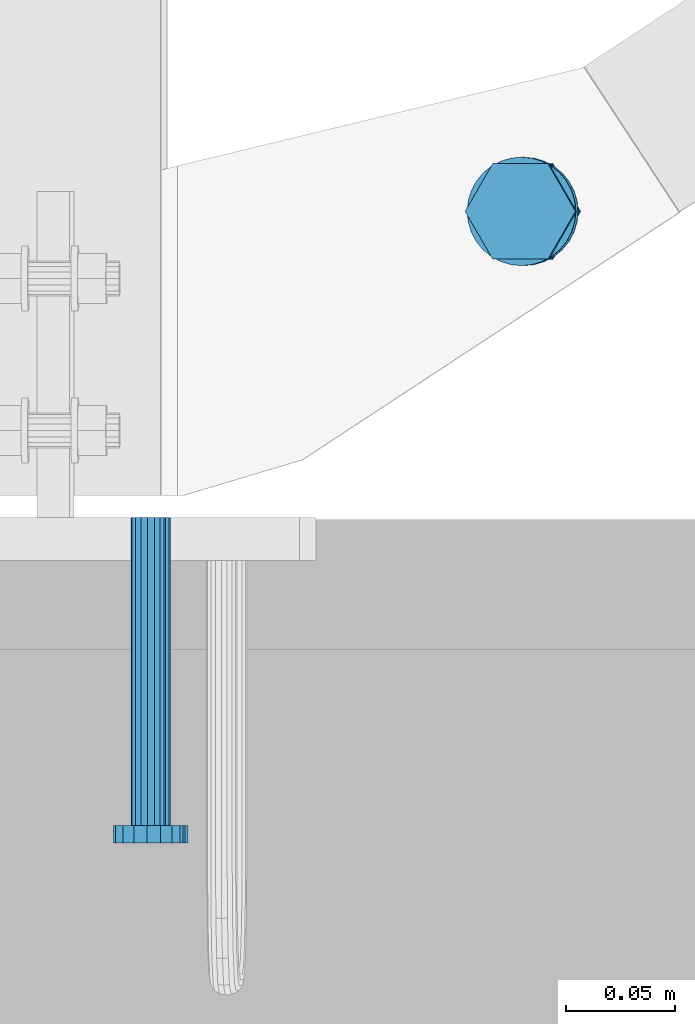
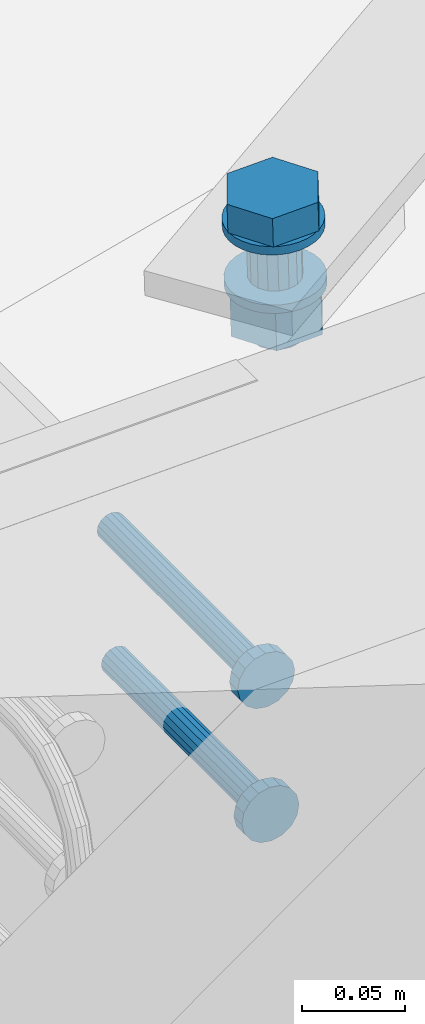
# One storey, part 98 of 476: 3 mechanical fasteners.
"""IFC2X3 building model written with IfcOpenShell, lengths in millimetres."""

from ifc_helpers import new_model, entity, si_unit, converted_unit, origin_with_axes, place, context, project, spatial, faceted_brep, element, save


model = new_model("IFC2X3")

# Units and contexts
model_context = context("Model", 3, precision=1e-09, world=origin_with_axes())
ifc_project = project(units=[si_unit("LENGTHUNIT", "METRE", prefix="MILLI"), si_unit("AREAUNIT", "SQUARE_METRE"), si_unit("VOLUMEUNIT", "CUBIC_METRE"), converted_unit("PLANEANGLEUNIT", "DEGREE", entity("IfcPlaneAngleMeasure", 0.01745329), si_unit("PLANEANGLEUNIT", "RADIAN"), dimensions=[0, 0, 0, 0, 0, 0, 0])], contexts=[model_context])

# Site, building, storey
site_placement = place(None, origin_with_axes())
site = spatial("IfcSite", under=ifc_project, at=site_placement, Name="mKR Teilneubau & Sanierung BA1 - Ostfildern", CompositionType="ELEMENT")
building_placement = place(site_placement, origin_with_axes())
building = spatial("IfcBuilding", under=site, at=building_placement, Name="Struktur 1", CompositionType="ELEMENT")
storey_placement = place(building_placement, origin_with_axes())
storey = spatial("IfcBuildingStorey", under=building, at=storey_placement, Name="Default Storey", CompositionType="ELEMENT", Elevation=0.0)

# Mechanical fasteners
mechanical_fastener_1_placement = place(None, origin_with_axes())
element("IfcMechanicalFastener", 1, at=mechanical_fastener_1_placement, inside=storey, ObjectType="-", NominalDiameter=27.0, NominalLength=70.0, context=model_context, shape_type="Brep", body=[
    faceted_brep([(8390.391336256, -23313.385941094, 5236.079336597), (8390.241238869, -23313.385941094, 5241.077083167), (8395.116298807, -23313.866309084, 5241.223495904), (8395.266396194, -23313.866309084, 5236.225749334), (8399.804012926, -23315.288952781, 5241.364282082), (8399.954110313, -23315.288952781, 5236.366535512), (8404.124235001, -23317.599200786, 5241.494031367), (8404.274332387, -23317.599200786, 5236.496284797), (8407.91094132, -23320.708271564, 5241.607757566), (8408.061038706, -23320.708271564, 5236.610010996), (8411.018610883, -23324.496685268, 5241.701090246), (8411.168708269, -23324.496685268, 5236.703343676), (8413.327817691, -23328.818855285, 5241.770442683), (8413.477915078, -23328.818855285, 5236.772696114), (8414.749820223, -23333.508683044, 5241.813149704), (8414.899917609, -23333.508683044, 5236.815403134), (8415.229971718, -23338.385941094, 5241.8275701), (8415.380069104, -23338.385941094, 5236.82982353), (8414.749820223, -23343.263199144, 5241.813149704), (8414.899917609, -23343.263199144, 5236.815403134), (8413.327817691, -23347.953026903, 5241.770442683), (8413.477915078, -23347.953026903, 5236.772696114), (8411.018610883, -23352.275196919, 5241.701090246), (8411.168708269, -23352.275196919, 5236.703343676), (8407.91094132, -23356.063610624, 5241.607757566), (8408.061038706, -23356.063610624, 5236.610010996), (8404.124235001, -23359.172681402, 5241.494031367), (8404.274332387, -23359.172681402, 5236.496284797), (8399.804012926, -23361.482929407, 5241.364282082), (8399.954110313, -23361.482929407, 5236.366535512), (8395.116298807, -23362.905573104, 5241.223495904), (8395.266396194, -23362.905573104, 5236.225749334), (8390.241238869, -23363.385941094, 5241.077083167), (8390.391336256, -23363.385941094, 5236.079336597), (8385.366178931, -23362.905573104, 5240.930670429), (8385.516276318, -23362.905573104, 5235.932923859), (8380.678464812, -23361.482929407, 5240.789884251), (8380.828562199, -23361.482929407, 5235.792137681), (8376.358242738, -23359.172681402, 5240.660134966), (8376.508340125, -23359.172681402, 5235.662388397), (8372.571536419, -23356.063610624, 5240.546408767), (8372.721633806, -23356.063610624, 5235.548662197), (8369.463866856, -23352.275196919, 5240.453076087), (8369.613964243, -23352.275196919, 5235.455329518), (8367.154660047, -23347.953026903, 5240.38372365), (8367.304757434, -23347.953026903, 5235.38597708), (8365.732657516, -23343.263199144, 5240.34101663), (8365.882754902, -23343.263199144, 5235.34327006), (8365.252506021, -23338.385941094, 5240.326596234), (8365.402603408, -23338.385941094, 5235.328849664), (8365.732657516, -23333.508683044, 5240.34101663), (8365.882754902, -23333.508683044, 5235.34327006), (8367.154660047, -23328.818855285, 5240.38372365), (8367.304757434, -23328.818855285, 5235.38597708), (8369.463866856, -23324.496685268, 5240.453076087), (8369.613964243, -23324.496685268, 5235.455329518), (8372.571536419, -23320.708271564, 5240.546408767), (8372.721633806, -23320.708271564, 5235.548662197), (8376.358242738, -23317.599200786, 5240.660134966), (8376.508340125, -23317.599200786, 5235.662388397), (8380.678464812, -23315.288952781, 5240.789884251), (8380.828562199, -23315.288952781, 5235.792137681), (8385.366178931, -23313.866309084, 5240.930670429), (8385.516276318, -23313.866309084, 5235.932923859)], [[[0, 1, 2, 3]], [[3, 2, 4, 5]], [[5, 4, 6, 7]], [[7, 6, 8, 9]], [[9, 8, 10, 11]], [[11, 10, 12, 13]], [[13, 12, 14, 15]], [[15, 14, 16, 17]], [[17, 16, 18, 19]], [[19, 18, 20, 21]], [[21, 20, 22, 23]], [[23, 22, 24, 25]], [[25, 24, 26, 27]], [[27, 26, 28, 29]], [[29, 28, 30, 31]], [[31, 30, 32, 33]], [[33, 32, 34, 35]], [[35, 34, 36, 37]], [[37, 36, 38, 39]], [[39, 38, 40, 41]], [[41, 40, 42, 43]], [[43, 42, 44, 45]], [[45, 44, 46, 47]], [[47, 46, 48, 49]], [[49, 48, 50, 51]], [[51, 50, 52, 53]], [[53, 52, 54, 55]], [[55, 54, 56, 57]], [[57, 56, 58, 59]], [[59, 58, 60, 61]], [[61, 60, 62, 63]], [[63, 62, 1, 0]], [[2, 1, 62, 60, 58, 56, 54, 52, 50, 48, 46, 44, 42, 40, 38, 36, 34, 32, 30, 28, 26, 24, 22, 20, 18, 16, 14, 12, 10, 8, 6, 4]], [[63, 0, 3, 5, 7, 9, 11, 13, 15, 17, 19, 21, 23, 25, 27, 29, 31, 33, 35, 37, 39, 41, 43, 45, 47, 49, 51, 53, 55, 57, 59, 61]]]),
    faceted_brep([(8402.437678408, -23360.404636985, 5258.451044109), (8402.948009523, -23360.404636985, 5241.458705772), (8415.654780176, -23338.385941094, 5241.840328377), (8415.144449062, -23338.385941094, 5258.832666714), (8402.948009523, -23316.367245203, 5241.458705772), (8402.437678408, -23316.367245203, 5258.451044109), (8377.534468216, -23316.367245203, 5240.695460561), (8377.024137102, -23316.367245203, 5257.687798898), (8364.827697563, -23338.385941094, 5240.313837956), (8364.317366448, -23338.385941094, 5257.306176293), (8377.534468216, -23360.404636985, 5240.695460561), (8377.024137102, -23360.404636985, 5257.687798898)], [[[0, 1, 2, 3]], [[3, 2, 4, 5]], [[5, 4, 6, 7]], [[7, 6, 8, 9]], [[9, 8, 10, 11]], [[11, 10, 1, 0]], [[3, 5, 7, 9, 11, 0]], [[2, 1, 10, 8, 6, 4]]]),
    faceted_brep([(8391.289547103, -23324.885941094, 5206.171885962), (8390.391336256, -23324.885941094, 5236.079336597), (8395.555234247, -23325.913567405, 5236.234424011), (8396.453445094, -23325.913567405, 5206.326973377), (8399.932975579, -23328.839999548, 5236.365900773), (8400.831186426, -23328.839999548, 5206.458450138), (8402.85808882, -23333.219714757, 5236.453750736), (8403.756299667, -23333.219714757, 5206.546300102), (8403.885251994, -23338.385941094, 5236.484599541), (8404.783462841, -23338.385941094, 5206.577148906), (8402.85808882, -23343.552167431, 5236.453750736), (8403.756299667, -23343.552167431, 5206.546300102), (8399.932975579, -23347.93188264, 5236.365900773), (8400.831186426, -23347.93188264, 5206.458450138), (8395.555234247, -23350.858314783, 5236.234424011), (8396.453445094, -23350.858314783, 5206.326973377), (8390.391336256, -23351.885941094, 5236.079336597), (8391.289547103, -23351.885941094, 5206.171885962), (8385.227438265, -23350.858314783, 5235.924249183), (8386.125649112, -23350.858314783, 5206.016798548), (8380.849696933, -23347.93188264, 5235.792772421), (8381.74790778, -23347.93188264, 5205.885321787), (8377.924583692, -23343.552167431, 5235.704922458), (8378.822794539, -23343.552167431, 5205.797471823), (8376.897420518, -23338.385941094, 5235.674073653), (8377.795631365, -23338.385941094, 5205.766623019), (8377.924583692, -23333.219714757, 5235.704922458), (8378.822794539, -23333.219714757, 5205.797471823), (8380.849696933, -23328.839999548, 5235.792772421), (8381.74790778, -23328.839999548, 5205.885321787), (8385.227438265, -23325.913567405, 5235.924249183), (8386.125649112, -23325.913567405, 5206.016798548)], [[[0, 1, 2, 3]], [[3, 2, 4, 5]], [[5, 4, 6, 7]], [[7, 6, 8, 9]], [[9, 8, 10, 11]], [[11, 10, 12, 13]], [[13, 12, 14, 15]], [[15, 14, 16, 17]], [[17, 16, 18, 19]], [[19, 18, 20, 21]], [[21, 20, 22, 23]], [[23, 22, 24, 25]], [[25, 24, 26, 27]], [[27, 26, 28, 29]], [[29, 28, 30, 31]], [[31, 30, 1, 0]], [[2, 1, 30, 28, 26, 24, 22, 20, 18, 16, 14, 12, 10, 8, 6, 4]], [[31, 0, 3, 5, 7, 9, 11, 13, 15, 17, 19, 21, 23, 25, 27, 29]]]),
    faceted_brep([(8391.43964449, -23313.385941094, 5201.174139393), (8391.289547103, -23313.385941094, 5206.171885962), (8396.164607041, -23313.866309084, 5206.3182987), (8396.314704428, -23313.866309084, 5201.32055213), (8400.85232116, -23315.288952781, 5206.459084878), (8401.002418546, -23315.288952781, 5201.461338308), (8405.172543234, -23317.599200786, 5206.588834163), (8405.322640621, -23317.599200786, 5201.591087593), (8408.959249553, -23320.708271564, 5206.702560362), (8409.10934694, -23320.708271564, 5201.704813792), (8412.066919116, -23324.496685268, 5206.795893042), (8412.217016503, -23324.496685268, 5201.798146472), (8414.376125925, -23328.818855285, 5206.865245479), (8414.526223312, -23328.818855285, 5201.86749891), (8415.798128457, -23333.508683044, 5206.907952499), (8415.948225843, -23333.508683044, 5201.91020593), (8416.278279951, -23338.385941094, 5206.922372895), (8416.428377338, -23338.385941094, 5201.924626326), (8415.798128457, -23343.263199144, 5206.907952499), (8415.948225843, -23343.263199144, 5201.91020593), (8414.376125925, -23347.953026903, 5206.865245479), (8414.526223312, -23347.953026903, 5201.86749891), (8412.066919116, -23352.275196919, 5206.795893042), (8412.217016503, -23352.275196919, 5201.798146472), (8408.959249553, -23356.063610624, 5206.702560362), (8409.10934694, -23356.063610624, 5201.704813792), (8405.172543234, -23359.172681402, 5206.588834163), (8405.322640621, -23359.172681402, 5201.591087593), (8400.85232116, -23361.482929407, 5206.459084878), (8401.002418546, -23361.482929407, 5201.461338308), (8396.164607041, -23362.905573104, 5206.3182987), (8396.314704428, -23362.905573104, 5201.32055213), (8391.289547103, -23363.385941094, 5206.171885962), (8391.43964449, -23363.385941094, 5201.174139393), (8386.414487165, -23362.905573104, 5206.025473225), (8386.564584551, -23362.905573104, 5201.027726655), (8381.726773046, -23361.482929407, 5205.884687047), (8381.876870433, -23361.482929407, 5200.886940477), (8377.406550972, -23359.172681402, 5205.754937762), (8377.556648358, -23359.172681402, 5200.757191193), (8373.619844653, -23356.063610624, 5205.641211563), (8373.769942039, -23356.063610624, 5200.643464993), (8370.51217509, -23352.275196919, 5205.547878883), (8370.662272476, -23352.275196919, 5200.550132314), (8368.202968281, -23347.953026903, 5205.478526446), (8368.353065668, -23347.953026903, 5200.480779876), (8366.780965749, -23343.263199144, 5205.435819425), (8366.931063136, -23343.263199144, 5200.438072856), (8366.300814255, -23338.385941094, 5205.421399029), (8366.450911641, -23338.385941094, 5200.42365246), (8366.780965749, -23333.508683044, 5205.435819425), (8366.931063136, -23333.508683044, 5200.438072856), (8368.202968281, -23328.818855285, 5205.478526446), (8368.353065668, -23328.818855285, 5200.480779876), (8370.51217509, -23324.496685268, 5205.547878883), (8370.662272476, -23324.496685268, 5200.550132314), (8373.619844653, -23320.708271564, 5205.641211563), (8373.769942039, -23320.708271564, 5200.643464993), (8377.406550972, -23317.599200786, 5205.754937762), (8377.556648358, -23317.599200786, 5200.757191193), (8381.726773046, -23315.288952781, 5205.884687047), (8381.876870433, -23315.288952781, 5200.886940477), (8386.414487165, -23313.866309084, 5206.025473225), (8386.564584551, -23313.866309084, 5201.027726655)], [[[0, 1, 2, 3]], [[3, 2, 4, 5]], [[5, 4, 6, 7]], [[7, 6, 8, 9]], [[9, 8, 10, 11]], [[11, 10, 12, 13]], [[13, 12, 14, 15]], [[15, 14, 16, 17]], [[17, 16, 18, 19]], [[19, 18, 20, 21]], [[21, 20, 22, 23]], [[23, 22, 24, 25]], [[25, 24, 26, 27]], [[27, 26, 28, 29]], [[29, 28, 30, 31]], [[31, 30, 32, 33]], [[33, 32, 34, 35]], [[35, 34, 36, 37]], [[37, 36, 38, 39]], [[39, 38, 40, 41]], [[41, 40, 42, 43]], [[43, 42, 44, 45]], [[45, 44, 46, 47]], [[47, 46, 48, 49]], [[49, 48, 50, 51]], [[51, 50, 52, 53]], [[53, 52, 54, 55]], [[55, 54, 56, 57]], [[57, 56, 58, 59]], [[59, 58, 60, 61]], [[61, 60, 62, 63]], [[63, 62, 1, 0]], [[2, 1, 62, 60, 58, 56, 54, 52, 50, 48, 46, 44, 42, 40, 38, 36, 34, 32, 30, 28, 26, 24, 22, 20, 18, 16, 14, 12, 10, 8, 6, 4]], [[63, 0, 3, 5, 7, 9, 11, 13, 15, 17, 19, 21, 23, 25, 27, 29, 31, 33, 35, 37, 39, 41, 43, 45, 47, 49, 51, 53, 55, 57, 59, 61]]]),
    faceted_brep([(8404.183898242, -23360.46958889, 5201.556887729), (8404.844326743, -23360.46958889, 5179.566802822), (8417.588580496, -23338.385941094, 5179.949551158), (8416.928151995, -23338.385941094, 5201.939636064), (8404.844326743, -23316.302293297, 5179.566802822), (8404.183898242, -23316.302293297, 5201.556887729), (8379.355819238, -23316.302293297, 5178.80130615), (8378.695390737, -23316.302293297, 5200.791391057), (8366.611565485, -23338.385941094, 5178.418557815), (8365.951136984, -23338.385941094, 5200.408642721), (8379.355819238, -23360.46958889, 5178.80130615), (8378.695390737, -23360.46958889, 5200.791391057)], [[[0, 1, 2, 3]], [[3, 2, 4, 5]], [[5, 4, 6, 7]], [[7, 6, 8, 9]], [[9, 8, 10, 11]], [[11, 10, 1, 0]], [[3, 5, 7, 9, 11, 0]], [[2, 1, 10, 8, 6, 4]]]),
    faceted_brep([(8392.342602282, -23324.885941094, 5171.108631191), (8392.100072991, -23324.885941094, 5179.184054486), (8397.263970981, -23325.913567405, 5179.339141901), (8397.506500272, -23325.913567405, 5171.263718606), (8401.641712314, -23328.839999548, 5179.470618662), (8401.884241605, -23328.839999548, 5171.395195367), (8404.566825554, -23333.219714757, 5179.558468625), (8404.809354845, -23333.219714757, 5171.48304533), (8405.593988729, -23338.385941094, 5179.58931743), (8405.83651802, -23338.385941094, 5171.513894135), (8404.566825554, -23343.552167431, 5179.558468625), (8404.809354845, -23343.552167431, 5171.48304533), (8401.641712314, -23347.93188264, 5179.470618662), (8401.884241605, -23347.93188264, 5171.395195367), (8397.263970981, -23350.858314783, 5179.339141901), (8397.506500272, -23350.858314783, 5171.263718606), (8392.100072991, -23351.885941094, 5179.184054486), (8392.342602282, -23351.885941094, 5171.108631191), (8386.936175, -23350.858314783, 5179.028967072), (8387.178704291, -23350.858314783, 5170.953543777), (8382.558433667, -23347.93188264, 5178.897490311), (8382.800962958, -23347.93188264, 5170.822067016), (8379.633320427, -23343.552167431, 5178.809640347), (8379.875849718, -23343.552167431, 5170.734217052), (8378.606157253, -23338.385941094, 5178.778791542), (8378.848686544, -23338.385941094, 5170.703368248), (8379.633320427, -23333.219714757, 5178.809640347), (8379.875849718, -23333.219714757, 5170.734217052), (8382.558433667, -23328.839999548, 5178.897490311), (8382.800962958, -23328.839999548, 5170.822067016), (8386.936175, -23325.913567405, 5179.028967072), (8387.178704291, -23325.913567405, 5170.953543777)], [[[0, 1, 2, 3]], [[3, 2, 4, 5]], [[5, 4, 6, 7]], [[7, 6, 8, 9]], [[9, 8, 10, 11]], [[11, 10, 12, 13]], [[13, 12, 14, 15]], [[15, 14, 16, 17]], [[17, 16, 18, 19]], [[19, 18, 20, 21]], [[21, 20, 22, 23]], [[23, 22, 24, 25]], [[25, 24, 26, 27]], [[27, 26, 28, 29]], [[29, 28, 30, 31]], [[31, 30, 1, 0]], [[2, 1, 30, 28, 26, 24, 22, 20, 18, 16, 14, 12, 10, 8, 6, 4]], [[31, 0, 3, 5, 7, 9, 11, 13, 15, 17, 19, 21, 23, 25, 27, 29]]]),
])
mechanical_fastener_2_placement = place(None, origin_with_axes())
element("IfcMechanicalFastener", 2, at=mechanical_fastener_2_placement, inside=storey, ObjectType="-", NominalDiameter=16.0, NominalLength=150.0, context=model_context, shape_type="Brep", body=[
    faceted_brep([(8210.288049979, -23621.31640625, 5203.568585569), (8210.288049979, -23479.31640625, 5203.568585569), (8210.988711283, -23479.31640625, 5200.52679439), (8210.988711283, -23621.31640625, 5200.52679439), (8212.80008101, -23479.31640625, 5197.98467725), (8212.80008101, -23621.31640625, 5197.98467725), (8215.446394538, -23479.31640625, 5196.329248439), (8215.446394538, -23621.31640625, 5196.329248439), (8218.524774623, -23479.31640625, 5195.812531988), (8218.524774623, -23621.31640625, 5195.812531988), (8221.566565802, -23479.31640625, 5196.513193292), (8221.566565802, -23621.31640625, 5196.513193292), (8224.108682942, -23479.31640625, 5198.324563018), (8224.108682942, -23621.31640625, 5198.324563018), (8225.764111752, -23479.31640625, 5200.970876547), (8225.764111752, -23621.31640625, 5200.970876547), (8226.280828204, -23479.31640625, 5204.049256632), (8226.280828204, -23621.31640625, 5204.049256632), (8225.5801669, -23479.31640625, 5207.091047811), (8225.5801669, -23621.31640625, 5207.091047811), (8223.768797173, -23479.31640625, 5209.633164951), (8223.768797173, -23621.31640625, 5209.633164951), (8221.122483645, -23479.31640625, 5211.288593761), (8221.122483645, -23621.31640625, 5211.288593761), (8218.04410356, -23479.31640625, 5211.805310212), (8218.04410356, -23621.31640625, 5211.805310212), (8215.002312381, -23479.31640625, 5211.104648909), (8215.002312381, -23621.31640625, 5211.104648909), (8212.460195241, -23479.31640625, 5209.293279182), (8212.460195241, -23621.31640625, 5209.293279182), (8210.804766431, -23479.31640625, 5206.646965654), (8210.804766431, -23621.31640625, 5206.646965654)], [[[0, 1, 2, 3]], [[3, 2, 4, 5]], [[5, 4, 6, 7]], [[7, 6, 8, 9]], [[9, 8, 10, 11]], [[11, 10, 12, 13]], [[13, 12, 14, 15]], [[15, 14, 16, 17]], [[17, 16, 18, 19]], [[19, 18, 20, 21]], [[21, 20, 22, 23]], [[23, 22, 24, 25]], [[25, 24, 26, 27]], [[27, 26, 28, 29]], [[29, 28, 30, 31]], [[31, 30, 1, 0]], [[0, 3, 5, 7, 9, 11, 13, 15, 17, 19, 21, 23, 25, 27, 29, 31]], [[1, 30, 28, 26, 24, 22, 20, 18, 16, 14, 12, 10, 8, 6, 4, 2]]]),
    faceted_brep([(8202.291660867, -23629.31640625, 5203.328250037), (8202.291660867, -23621.31640625, 5203.328250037), (8203.692983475, -23621.31640625, 5197.244667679), (8203.692983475, -23629.31640625, 5197.244667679), (8207.315722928, -23621.31640625, 5192.160433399), (8207.315722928, -23629.31640625, 5192.160433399), (8212.608349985, -23621.31640625, 5188.849575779), (8212.608349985, -23629.31640625, 5188.849575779), (8218.765110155, -23621.31640625, 5187.816142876), (8218.765110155, -23629.31640625, 5187.816142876), (8224.848692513, -23621.31640625, 5189.217465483), (8224.848692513, -23629.31640625, 5189.217465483), (8229.932926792, -23621.31640625, 5192.840204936), (8229.932926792, -23629.31640625, 5192.840204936), (8233.243784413, -23621.31640625, 5198.132831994), (8233.243784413, -23629.31640625, 5198.132831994), (8234.277217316, -23621.31640625, 5204.289592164), (8234.277217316, -23629.31640625, 5204.289592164), (8232.875894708, -23621.31640625, 5210.373174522), (8232.875894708, -23629.31640625, 5210.373174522), (8229.253155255, -23621.31640625, 5215.457408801), (8229.253155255, -23629.31640625, 5215.457408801), (8223.960528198, -23621.31640625, 5218.768266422), (8223.960528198, -23629.31640625, 5218.768266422), (8217.803768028, -23621.31640625, 5219.801699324), (8217.803768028, -23629.31640625, 5219.801699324), (8211.72018567, -23621.31640625, 5218.400376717), (8211.72018567, -23629.31640625, 5218.400376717), (8206.635951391, -23621.31640625, 5214.777637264), (8206.635951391, -23629.31640625, 5214.777637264), (8203.32509377, -23621.31640625, 5209.485010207), (8203.32509377, -23629.31640625, 5209.485010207)], [[[0, 1, 2, 3]], [[3, 2, 4, 5]], [[5, 4, 6, 7]], [[7, 6, 8, 9]], [[9, 8, 10, 11]], [[11, 10, 12, 13]], [[13, 12, 14, 15]], [[15, 14, 16, 17]], [[17, 16, 18, 19]], [[19, 18, 20, 21]], [[21, 20, 22, 23]], [[23, 22, 24, 25]], [[25, 24, 26, 27]], [[27, 26, 28, 29]], [[29, 28, 30, 31]], [[31, 30, 1, 0]], [[0, 3, 5, 7, 9, 11, 13, 15, 17, 19, 21, 23, 25, 27, 29, 31]], [[1, 30, 28, 26, 24, 22, 20, 18, 16, 14, 12, 10, 8, 6, 4, 2]]]),
])
mechanical_fastener_3_placement = place(None, origin_with_axes())
element("IfcMechanicalFastener", 3, at=mechanical_fastener_3_placement, inside=storey, ObjectType="-", NominalDiameter=16.0, NominalLength=150.0, context=model_context, shape_type="Brep", body=[
    faceted_brep([(8212.691405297, -23621.31640625, 5123.604694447), (8212.691405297, -23479.31640625, 5123.604694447), (8213.392066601, -23479.31640625, 5120.562903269), (8213.392066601, -23621.31640625, 5120.562903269), (8215.203436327, -23479.31640625, 5118.020786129), (8215.203436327, -23621.31640625, 5118.020786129), (8217.849749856, -23479.31640625, 5116.365357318), (8217.849749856, -23621.31640625, 5116.365357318), (8220.928129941, -23479.31640625, 5115.848640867), (8220.928129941, -23621.31640625, 5115.848640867), (8223.96992112, -23479.31640625, 5116.549302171), (8223.96992112, -23621.31640625, 5116.549302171), (8226.512038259, -23479.31640625, 5118.360671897), (8226.512038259, -23621.31640625, 5118.360671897), (8228.16746707, -23479.31640625, 5121.006985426), (8228.16746707, -23621.31640625, 5121.006985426), (8228.684183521, -23479.31640625, 5124.085365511), (8228.684183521, -23621.31640625, 5124.085365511), (8227.983522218, -23479.31640625, 5127.12715669), (8227.983522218, -23621.31640625, 5127.12715669), (8226.172152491, -23479.31640625, 5129.66927383), (8226.172152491, -23621.31640625, 5129.66927383), (8223.525838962, -23479.31640625, 5131.32470264), (8223.525838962, -23621.31640625, 5131.32470264), (8220.447458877, -23479.31640625, 5131.841419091), (8220.447458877, -23621.31640625, 5131.841419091), (8217.405667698, -23479.31640625, 5131.140757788), (8217.405667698, -23621.31640625, 5131.140757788), (8214.863550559, -23479.31640625, 5129.329388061), (8214.863550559, -23621.31640625, 5129.329388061), (8213.208121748, -23479.31640625, 5126.683074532), (8213.208121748, -23621.31640625, 5126.683074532)], [[[0, 1, 2, 3]], [[3, 2, 4, 5]], [[5, 4, 6, 7]], [[7, 6, 8, 9]], [[9, 8, 10, 11]], [[11, 10, 12, 13]], [[13, 12, 14, 15]], [[15, 14, 16, 17]], [[17, 16, 18, 19]], [[19, 18, 20, 21]], [[21, 20, 22, 23]], [[23, 22, 24, 25]], [[25, 24, 26, 27]], [[27, 26, 28, 29]], [[29, 28, 30, 31]], [[31, 30, 1, 0]], [[0, 3, 5, 7, 9, 11, 13, 15, 17, 19, 21, 23, 25, 27, 29, 31]], [[1, 30, 28, 26, 24, 22, 20, 18, 16, 14, 12, 10, 8, 6, 4, 2]]]),
    faceted_brep([(8204.695016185, -23629.31640625, 5123.364358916), (8204.695016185, -23621.31640625, 5123.364358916), (8206.096338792, -23621.31640625, 5117.280776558), (8206.096338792, -23629.31640625, 5117.280776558), (8209.719078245, -23621.31640625, 5112.196542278), (8209.719078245, -23629.31640625, 5112.196542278), (8215.011705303, -23621.31640625, 5108.885684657), (8215.011705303, -23629.31640625, 5108.885684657), (8221.168465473, -23621.31640625, 5107.852251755), (8221.168465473, -23629.31640625, 5107.852251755), (8227.25204783, -23621.31640625, 5109.253574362), (8227.25204783, -23629.31640625, 5109.253574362), (8232.33628211, -23621.31640625, 5112.876313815), (8232.33628211, -23629.31640625, 5112.876313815), (8235.647139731, -23621.31640625, 5118.168940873), (8235.647139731, -23629.31640625, 5118.168940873), (8236.680572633, -23621.31640625, 5124.325701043), (8236.680572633, -23629.31640625, 5124.325701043), (8235.279250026, -23621.31640625, 5130.409283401), (8235.279250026, -23629.31640625, 5130.409283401), (8231.656510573, -23621.31640625, 5135.49351768), (8231.656510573, -23629.31640625, 5135.49351768), (8226.363883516, -23621.31640625, 5138.804375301), (8226.363883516, -23629.31640625, 5138.804375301), (8220.207123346, -23621.31640625, 5139.837808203), (8220.207123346, -23629.31640625, 5139.837808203), (8214.123540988, -23621.31640625, 5138.436485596), (8214.123540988, -23629.31640625, 5138.436485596), (8209.039306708, -23621.31640625, 5134.813746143), (8209.039306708, -23629.31640625, 5134.813746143), (8205.728449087, -23621.31640625, 5129.521119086), (8205.728449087, -23629.31640625, 5129.521119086)], [[[0, 1, 2, 3]], [[3, 2, 4, 5]], [[5, 4, 6, 7]], [[7, 6, 8, 9]], [[9, 8, 10, 11]], [[11, 10, 12, 13]], [[13, 12, 14, 15]], [[15, 14, 16, 17]], [[17, 16, 18, 19]], [[19, 18, 20, 21]], [[21, 20, 22, 23]], [[23, 22, 24, 25]], [[25, 24, 26, 27]], [[27, 26, 28, 29]], [[29, 28, 30, 31]], [[31, 30, 1, 0]], [[0, 3, 5, 7, 9, 11, 13, 15, 17, 19, 21, 23, 25, 27, 29, 31]], [[1, 30, 28, 26, 24, 22, 20, 18, 16, 14, 12, 10, 8, 6, 4, 2]]]),
])

save(model, "model.ifc")
